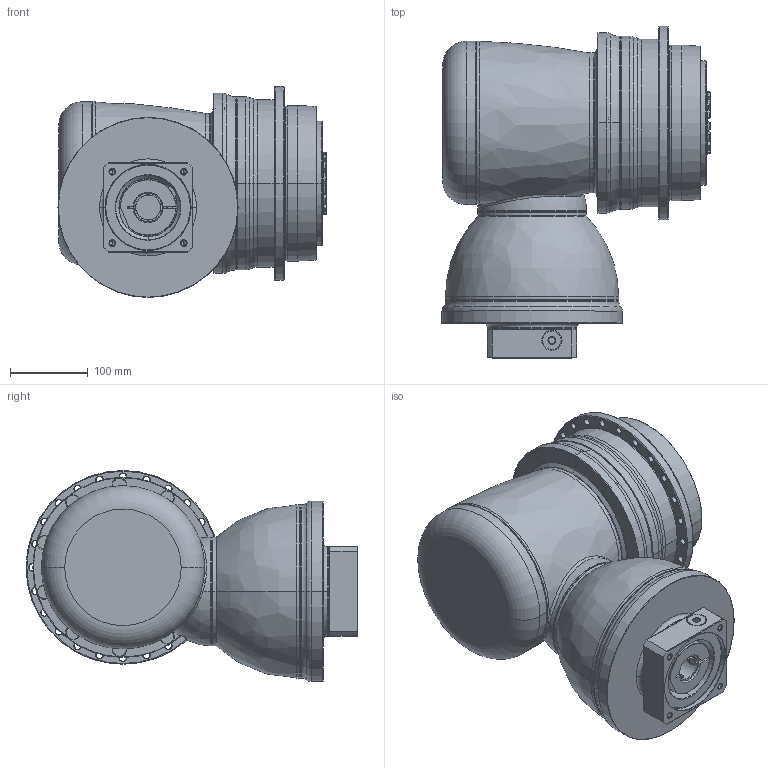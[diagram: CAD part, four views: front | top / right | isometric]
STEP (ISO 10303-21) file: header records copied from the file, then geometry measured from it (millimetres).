
FILE_DESCRIPTION((''),'2;1');
FILE_NAME('APCK200_2ST_32-P0409710201_ASM','2018-05-09T',('d01226'),(''),'PRO/ENGINEER BY PARAMETRIC TECHNOLOGY CORPORATION, 2008410','PRO/ENGINEER BY PARAMETRIC TECHNOLOGY CORPORATION, 2008410','');
FILE_SCHEMA(('CONFIG_CONTROL_DESIGN'));
Length unit declared in the file: millimetre
Products named in the file (13): P1008600002; P1802610011; P0278601003; P0359660103; P1211600001; P1315600001; P1007601001; P1318610001; P0409710201; P0503700010; P0912650001; 21711418017; APCK200_2ST_32-P0409710201_ASM
Assembly tree (12 placements, depth 2):
  APCK200_2ST_32-P0409710201_ASM
    P1008600002
    P1802610011
    P0278601003
    P0359660103
    P1211600001
    P1315600001
    P1007601001
    P1318610001
    P0409710201
    P0503700010
    P0912650001
    21711418017
Bounding box: 345.1 x 427.25 x 271.75 mm (x, y, z)
Volume: 17518153 mm3; surface area: 1108378.3 mm2
Topology: 13 solids, 23 shells, 797 faces, 1873 edges, 1148 vertices
Faces by surface type: cylinder 264, cone 233, plane 152, torus 113, bspline 33, sphere 2
Entity records: 30006 total; most frequent: CARTESIAN_POINT 11083, DIRECTION 4277, ORIENTED_EDGE 3676, AXIS2_PLACEMENT_3D 1872, EDGE_CURVE 1859, VERTEX_POINT 1148, CIRCLE 1073, EDGE_LOOP 921
